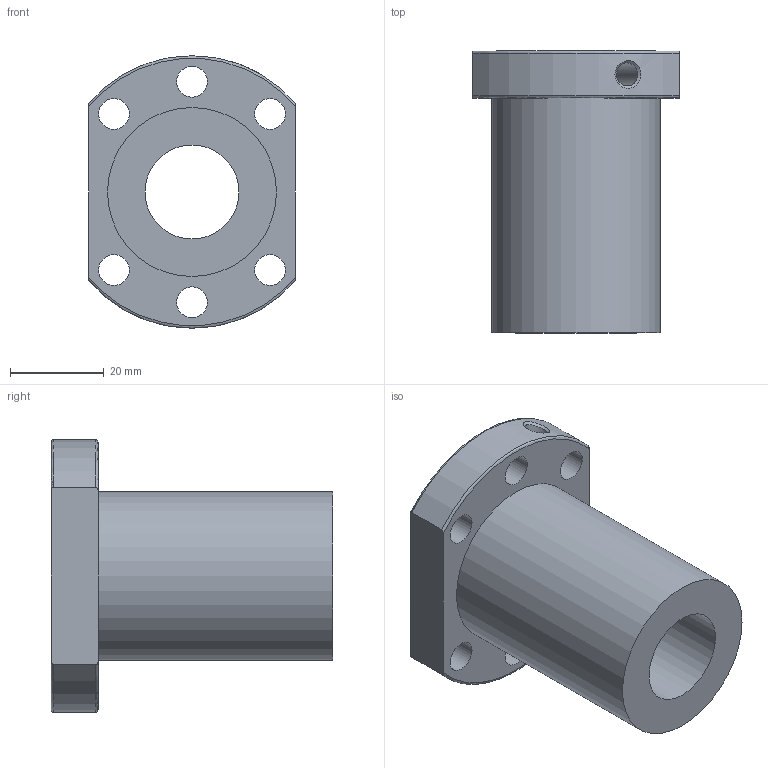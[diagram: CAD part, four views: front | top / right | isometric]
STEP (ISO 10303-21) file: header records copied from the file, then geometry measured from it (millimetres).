
FILE_DESCRIPTION(/* description */ (''),/* implementation_level */ '2;1');
FILE_NAME(/* name */ 'C:\Users\David Dillkötter\ownCloud\Kamp und Kötter\Artikel\Kugelumlaufspindel SFU2010\02_STEP-Dateien\SFU2010 Spindelmutter_MJ2020.stp',/* time_stamp */ '2020-08-25T16:08:40+02:00',/* author */ ('David Dillkötter'),/* organization */ (''),/* preprocessor_version */ 'ST-DEVELOPER v18.1',/* originating_system */ 'Autodesk Inventor 2021',/* authorisation */ '');
FILE_SCHEMA (('AUTOMOTIVE_DESIGN { 1 0 10303 214 3 1 1 }'));
Length unit declared in the file: millimetre
Products named in the file (1): SFU2005 Spindelmutter_MJ2020
Bounding box: 44 x 60 x 58 mm (x, y, z)
Volume: 52443.6 mm3; surface area: 16163 mm2
Topology: 1 solids, 1 shells, 22 faces, 56 edges, 37 vertices
Faces by surface type: cylinder 11, plane 5, torus 4, bspline 1, cone 1
Full cylindrical faces by diameter (mm): 4.917 x1, 6.6 x6, 20 x1, 36 x1
Entity records: 920 total; most frequent: CARTESIAN_POINT 319, DIRECTION 113, ORIENTED_EDGE 110, EDGE_CURVE 55, AXIS2_PLACEMENT_3D 47, EDGE_LOOP 38, VERTEX_POINT 37, CIRCLE 25
